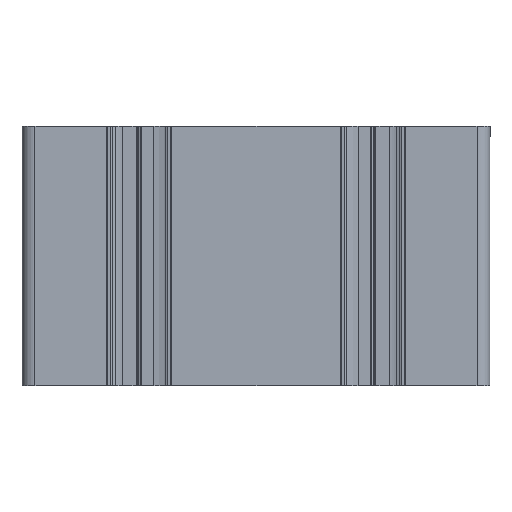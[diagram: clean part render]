
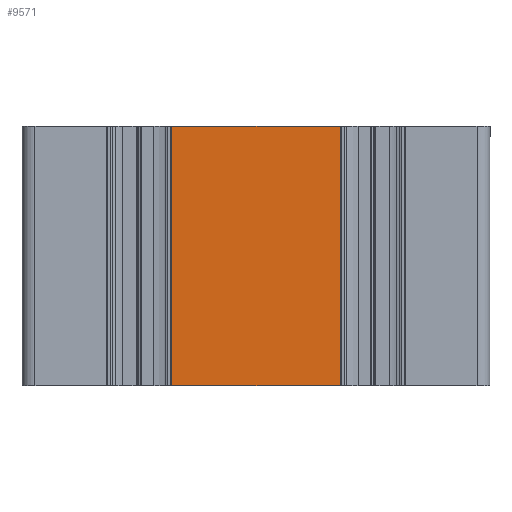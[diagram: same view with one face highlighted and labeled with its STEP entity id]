
A CAD part, left-side view. The second image highlights one B-rep face of the part: STEP entity #9571.
In plain terms, the highlighted planar face has unit normal (-1, 0, 0).
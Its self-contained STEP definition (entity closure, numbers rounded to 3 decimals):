
#233 = VERTEX_POINT ( 'NONE', #17549 ) ;
#543 = CARTESIAN_POINT ( 'NONE',  ( 1102.599, 166.985, 0. ) ) ;
#1292 = CARTESIAN_POINT ( 'NONE',  ( 1102.599, 166.985, 0. ) ) ;
#1472 = VECTOR ( 'NONE', #9972, 1000. ) ;
#1489 = AXIS2_PLACEMENT_3D ( 'NONE', #543, #8853, #13559 ) ;
#1825 = ORIENTED_EDGE ( 'NONE', *, *, #15004, .F. ) ;
#1877 = CARTESIAN_POINT ( 'NONE',  ( 1102.599, 166.985, 0. ) ) ;
#2331 = PLANE ( 'NONE',  #1489 ) ;
#2868 = VERTEX_POINT ( 'NONE', #20755 ) ;
#4033 = CARTESIAN_POINT ( 'NONE',  ( 1102.599, 199.385, 50. ) ) ;
#7014 = VECTOR ( 'NONE', #10598, 1000. ) ;
#7449 = CARTESIAN_POINT ( 'NONE',  ( 1102.599, 199.385, 50. ) ) ;
#8248 = EDGE_CURVE ( 'NONE', #233, #20464, #12693, .T. ) ;
#8853 = DIRECTION ( 'NONE',  ( -1., 0., 0. ) ) ;
#9571 = ADVANCED_FACE ( 'NONE', ( #15207 ), #2331, .T. ) ;
#9972 = DIRECTION ( 'NONE',  ( 0., -1., 0. ) ) ;
#10342 = DIRECTION ( 'NONE',  ( 0., 0., -1. ) ) ;
#10482 = DIRECTION ( 'NONE',  ( 0., 0., 1. ) ) ;
#10598 = DIRECTION ( 'NONE',  ( 0., -1., 0. ) ) ;
#10785 = LINE ( 'NONE', #12027, #18196 ) ;
#10969 = ORIENTED_EDGE ( 'NONE', *, *, #16195, .T. ) ;
#12027 = CARTESIAN_POINT ( 'NONE',  ( 1102.599, 199.385, 0. ) ) ;
#12153 = CARTESIAN_POINT ( 'NONE',  ( 1102.599, 166.985, 0. ) ) ;
#12161 = EDGE_LOOP ( 'NONE', ( #10969, #1825, #12732, #14525 ) ) ;
#12693 = LINE ( 'NONE', #1877, #1472 ) ;
#12732 = ORIENTED_EDGE ( 'NONE', *, *, #16174, .T. ) ;
#13559 = DIRECTION ( 'NONE',  ( 0., -1., 0. ) ) ;
#14308 = VERTEX_POINT ( 'NONE', #7449 ) ;
#14525 = ORIENTED_EDGE ( 'NONE', *, *, #8248, .T. ) ;
#14596 = LINE ( 'NONE', #12153, #16172 ) ;
#15004 = EDGE_CURVE ( 'NONE', #14308, #2868, #18504, .T. ) ;
#15207 = FACE_OUTER_BOUND ( 'NONE', #12161, .T. ) ;
#16172 = VECTOR ( 'NONE', #10482, 1000. ) ;
#16174 = EDGE_CURVE ( 'NONE', #14308, #233, #10785, .T. ) ;
#16195 = EDGE_CURVE ( 'NONE', #20464, #2868, #14596, .T. ) ;
#17549 = CARTESIAN_POINT ( 'NONE',  ( 1102.599, 199.385, 0. ) ) ;
#18196 = VECTOR ( 'NONE', #10342, 1000. ) ;
#18504 = LINE ( 'NONE', #4033, #7014 ) ;
#20464 = VERTEX_POINT ( 'NONE', #1292 ) ;
#20755 = CARTESIAN_POINT ( 'NONE',  ( 1102.599, 166.985, 50. ) ) ;
